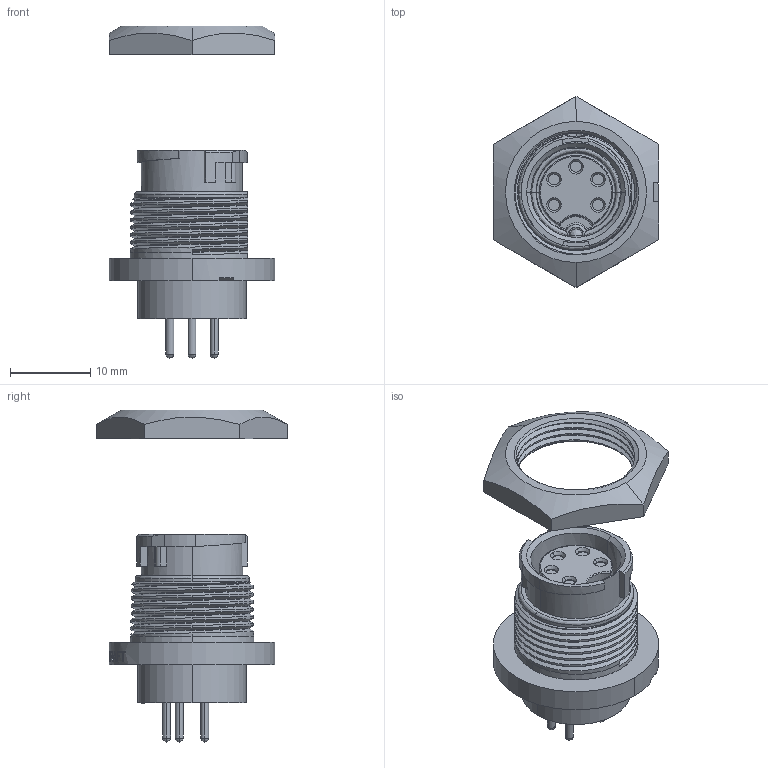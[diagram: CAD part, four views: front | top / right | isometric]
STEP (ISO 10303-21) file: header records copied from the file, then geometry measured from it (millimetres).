
FILE_DESCRIPTION (( 'STEP AP214' ), '1' );
FILE_NAME ('EN3P5FPX.STEP', '2014-07-01T16:59:43', ( '' ), ( '' ), 'SwSTEP 2.0', 'SolidWorks 2014', '' );
FILE_SCHEMA (( 'AUTOMOTIVE_DESIGN' ));
Length unit declared in the file: inch
Products named in the file (1): EN3P5FPX
Bounding box: 20.64 x 23.83 x 41.38 mm (x, y, z)
Volume: 3825.7 mm3; surface area: 3414 mm2
Topology: 2 solids, 2 shells, 455 faces, 1219 edges, 784 vertices
Faces by surface type: bspline 146, plane 145, cylinder 120, cone 44
Entity records: 31853 total; most frequent: CARTESIAN_POINT 21169, ORIENTED_EDGE 2396, DIRECTION 1727, EDGE_CURVE 1198, VERTEX_POINT 784, AXIS2_PLACEMENT_3D 624, EDGE_LOOP 494, LINE 479
